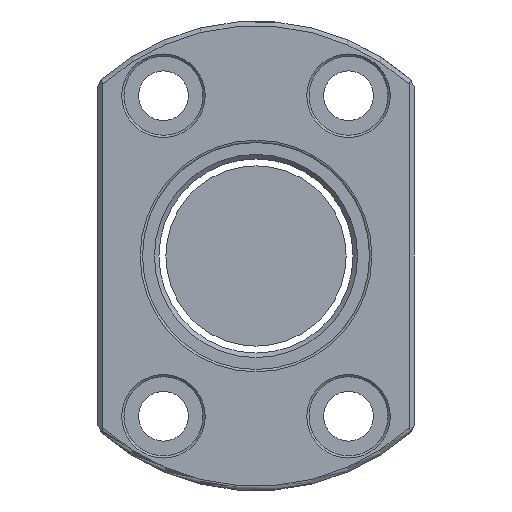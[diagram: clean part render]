
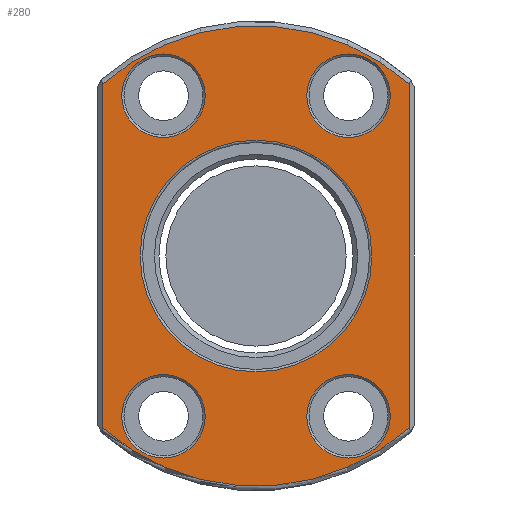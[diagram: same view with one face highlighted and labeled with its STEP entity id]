
A CAD part, front view. The second image highlights one B-rep face of the part: STEP entity #280.
In plain terms, the highlighted planar face has unit normal (0, -1, 0).
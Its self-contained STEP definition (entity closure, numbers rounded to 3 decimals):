
#57=LINE('',#1700,#97);
#58=LINE('',#1704,#98);
#97=VECTOR('',#1398,1.);
#98=VECTOR('',#1401,1.);
#203=PLANE('',#1170);
#280=ADVANCED_FACE('',(#384,#385,#386,#387,#388,#389),#203,.T.);
#384=FACE_BOUND('',#496,.T.);
#385=FACE_BOUND('',#497,.T.);
#386=FACE_BOUND('',#498,.T.);
#387=FACE_BOUND('',#499,.T.);
#388=FACE_BOUND('',#500,.T.);
#389=FACE_BOUND('',#501,.T.);
#496=EDGE_LOOP('',(#663));
#497=EDGE_LOOP('',(#664));
#498=EDGE_LOOP('',(#665));
#499=EDGE_LOOP('',(#666));
#500=EDGE_LOOP('',(#667));
#501=EDGE_LOOP('',(#668,#669,#670,#671));
#663=ORIENTED_EDGE('',*,*,#964,.T.);
#664=ORIENTED_EDGE('',*,*,#965,.T.);
#665=ORIENTED_EDGE('',*,*,#966,.T.);
#666=ORIENTED_EDGE('',*,*,#967,.T.);
#667=ORIENTED_EDGE('',*,*,#968,.T.);
#668=ORIENTED_EDGE('',*,*,#969,.T.);
#669=ORIENTED_EDGE('',*,*,#970,.T.);
#670=ORIENTED_EDGE('',*,*,#971,.T.);
#671=ORIENTED_EDGE('',*,*,#972,.T.);
#859=VERTEX_POINT('',#1688);
#860=VERTEX_POINT('',#1690);
#861=VERTEX_POINT('',#1692);
#862=VERTEX_POINT('',#1694);
#863=VERTEX_POINT('',#1696);
#864=VERTEX_POINT('',#1698);
#865=VERTEX_POINT('',#1699);
#866=VERTEX_POINT('',#1701);
#867=VERTEX_POINT('',#1703);
#964=EDGE_CURVE('',#859,#859,#1067,.T.);
#965=EDGE_CURVE('',#860,#860,#1068,.T.);
#966=EDGE_CURVE('',#861,#861,#1069,.T.);
#967=EDGE_CURVE('',#862,#862,#1070,.T.);
#968=EDGE_CURVE('',#863,#863,#1071,.T.);
#969=EDGE_CURVE('',#864,#865,#1072,.T.);
#970=EDGE_CURVE('',#865,#866,#57,.T.);
#971=EDGE_CURVE('',#866,#867,#1073,.T.);
#972=EDGE_CURVE('',#867,#864,#58,.T.);
#1067=CIRCLE('',#1163,25.65);
#1068=CIRCLE('',#1164,9.25);
#1069=CIRCLE('',#1165,9.25);
#1070=CIRCLE('',#1166,9.25);
#1071=CIRCLE('',#1167,9.25);
#1072=CIRCLE('',#1168,51.);
#1073=CIRCLE('',#1169,51.);
#1163=AXIS2_PLACEMENT_3D('',#1687,#1386,#1387);
#1164=AXIS2_PLACEMENT_3D('',#1689,#1388,#1389);
#1165=AXIS2_PLACEMENT_3D('',#1691,#1390,#1391);
#1166=AXIS2_PLACEMENT_3D('',#1693,#1392,#1393);
#1167=AXIS2_PLACEMENT_3D('',#1695,#1394,#1395);
#1168=AXIS2_PLACEMENT_3D('',#1697,#1396,#1397);
#1169=AXIS2_PLACEMENT_3D('',#1702,#1399,#1400);
#1170=AXIS2_PLACEMENT_3D('',#1705,#1402,#1403);
#1386=DIRECTION('',(0.,1.,0.));
#1387=DIRECTION('',(0.,0.,-1.));
#1388=DIRECTION('',(0.,1.,0.));
#1389=DIRECTION('',(0.,0.,-1.));
#1390=DIRECTION('',(0.,1.,0.));
#1391=DIRECTION('',(0.,0.,-1.));
#1392=DIRECTION('',(0.,1.,0.));
#1393=DIRECTION('',(0.,0.,-1.));
#1394=DIRECTION('',(0.,1.,0.));
#1395=DIRECTION('',(0.,0.,-1.));
#1396=DIRECTION('',(0.,-1.,0.));
#1397=DIRECTION('',(0.,0.,-1.));
#1398=DIRECTION('',(0.,0.,-1.));
#1399=DIRECTION('',(0.,-1.,0.));
#1400=DIRECTION('',(0.,0.,-1.));
#1401=DIRECTION('',(0.,0.,1.));
#1402=DIRECTION('',(0.,-1.,0.));
#1403=DIRECTION('',(0.,0.,-1.));
#1687=CARTESIAN_POINT('',(0.,0.,0.));
#1688=CARTESIAN_POINT('',(0.,0.,-25.65));
#1689=CARTESIAN_POINT('',(-20.5,0.,35.507));
#1690=CARTESIAN_POINT('',(-20.5,0.,26.257));
#1691=CARTESIAN_POINT('',(20.5,0.,35.507));
#1692=CARTESIAN_POINT('',(20.5,0.,26.257));
#1693=CARTESIAN_POINT('',(20.5,0.,-35.507));
#1694=CARTESIAN_POINT('',(20.5,0.,-44.757));
#1695=CARTESIAN_POINT('',(-20.5,0.,-35.507));
#1696=CARTESIAN_POINT('',(-20.5,0.,-44.757));
#1697=CARTESIAN_POINT('',(0.,0.,0.));
#1698=CARTESIAN_POINT('',(34.,0.,38.013));
#1699=CARTESIAN_POINT('',(-34.,0.,38.013));
#1700=CARTESIAN_POINT('',(-34.,0.,-37.094));
#1701=CARTESIAN_POINT('',(-34.,0.,-38.013));
#1702=CARTESIAN_POINT('',(0.,0.,0.));
#1703=CARTESIAN_POINT('',(34.,0.,-38.013));
#1704=CARTESIAN_POINT('',(34.,0.,37.094));
#1705=CARTESIAN_POINT('',(0.,0.,0.));
